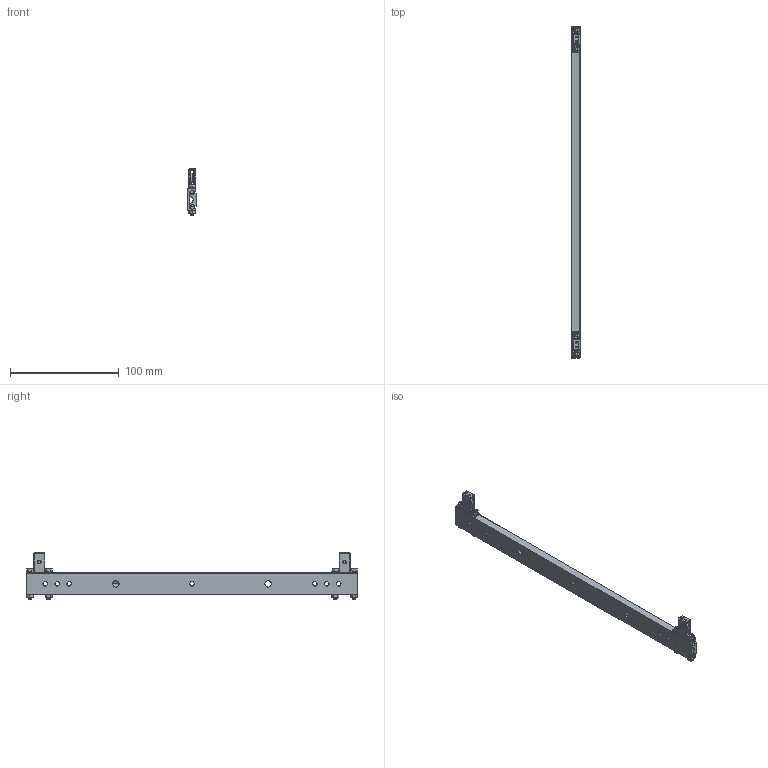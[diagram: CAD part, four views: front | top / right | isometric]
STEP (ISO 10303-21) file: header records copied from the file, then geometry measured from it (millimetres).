
FILE_DESCRIPTION (( 'STEP AP214' ), '1' );
FILE_NAME ('BL-300A.STEP', '2022-07-22T05:32:14', ( '' ), ( '' ), 'SwSTEP 2.0', 'SolidWorks 2020', '' );
FILE_SCHEMA (( 'AUTOMOTIVE_DESIGN' ));
Length unit declared in the file: millimetre
Products named in the file (10): BL-300A; BallBearing; InnerSlide300A; OuterSlide300A; StoperPin; NoHeadScrew; M3.step; VPulley; PulleyBracketV3; StopperScrew
Assembly tree (58 placements, depth 2):
  BL-300A
    PulleyBracketV3  x2
    InnerSlide300A
    OuterSlide300A
    StopperScrew  x8
    BallBearing  x30
    VPulley  x2
    M3.step  x8
    NoHeadScrew  x2
    StoperPin  x4
Bounding box: 8.18 x 304.8 x 42.55 mm (x, y, z)
Volume: 34768.2 mm3; surface area: 40244 mm2
Topology: 58 solids, 58 shells, 1370 faces, 3503 edges, 2171 vertices
Faces by surface type: cylinder 593, cone 304, plane 208, bspline 151, sphere 60, torus 54
Entity records: 44951 total; most frequent: CARTESIAN_POINT 32531, ORIENTED_EDGE 2900, DIRECTION 2003, EDGE_CURVE 1450, VERTEX_POINT 931, AXIS2_PLACEMENT_3D 786, EDGE_LOOP 593, FACE_OUTER_BOUND 531
